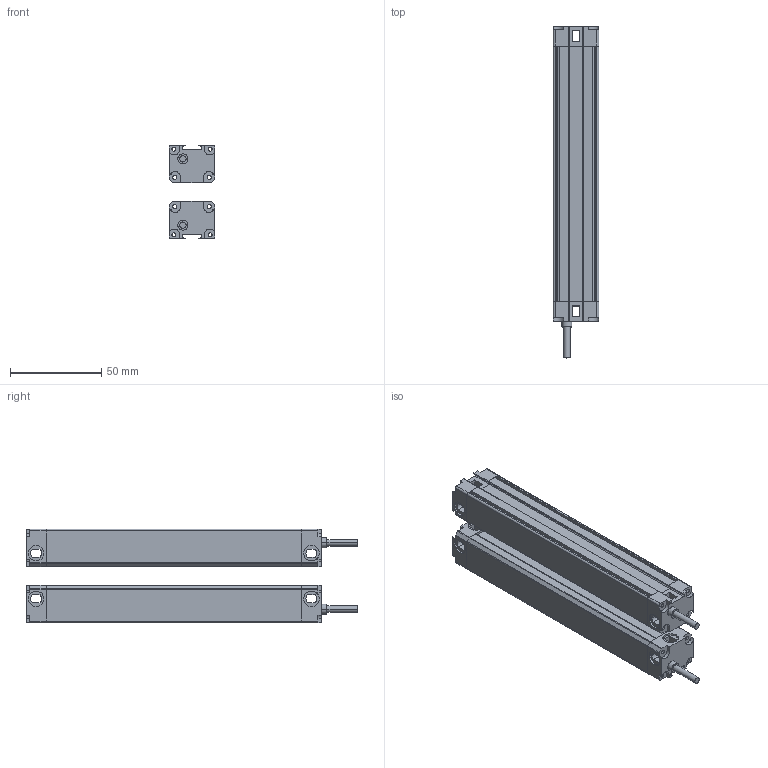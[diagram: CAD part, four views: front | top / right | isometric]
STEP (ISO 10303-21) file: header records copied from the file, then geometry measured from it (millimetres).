
FILE_DESCRIPTION (( 'STEP AP214' ), '1' );
FILE_NAME ('MTC1110.STEP', '2022-12-02T08:05:18', ( '' ), ( '' ), 'SwSTEP 2.0', 'SolidWorks 2018', '' );
FILE_SCHEMA (( 'AUTOMOTIVE_DESIGN' ));
Length unit declared in the file: millimetre
Products named in the file (5): 噩砃P02^MTC; MTC1110; P02^MTC; MTC waike^MTC; P01^MTC
Assembly tree (6 placements, depth 2):
  MTC1110
    MTC waike^MTC  x2
    P01^MTC  x2
    P02^MTC
    噩砃P02^MTC
Bounding box: 25 x 182 x 51.4 mm (x, y, z)
Volume: 61118.2 mm3; surface area: 76182.2 mm2
Topology: 8 solids, 8 shells, 480 faces, 1396 edges, 924 vertices
Faces by surface type: plane 272, cylinder 208
Entity records: 10886 total; most frequent: DIRECTION 1881, CARTESIAN_POINT 1878, ORIENTED_EDGE 1846, EDGE_CURVE 923, AXIS2_PLACEMENT_3D 637, VERTEX_POINT 610, VECTOR 607, LINE 607
